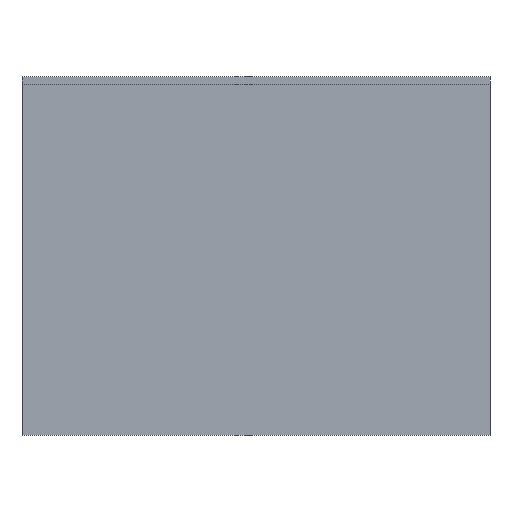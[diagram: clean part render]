
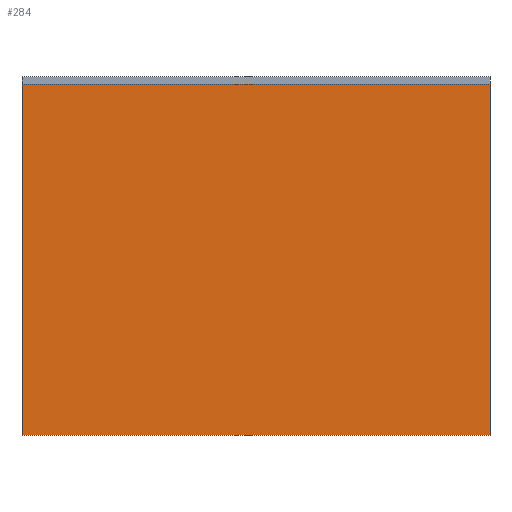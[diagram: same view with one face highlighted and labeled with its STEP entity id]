
A CAD part, front view. The second image highlights one B-rep face of the part: STEP entity #284.
In plain terms, the highlighted planar face has unit normal (0, -1, 0).
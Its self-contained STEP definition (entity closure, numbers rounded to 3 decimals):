
#38=FACE_OUTER_BOUND('',#52,.T.);
#52=EDGE_LOOP('',(#253,#254,#255,#256));
#58=LINE('',#387,#94);
#85=LINE('',#441,#121);
#87=LINE('',#444,#123);
#88=LINE('',#446,#124);
#94=VECTOR('',#318,10.);
#121=VECTOR('',#363,10.);
#123=VECTOR('',#367,10.);
#124=VECTOR('',#370,10.);
#129=VERTEX_POINT('',#384);
#130=VERTEX_POINT('',#386);
#147=VERTEX_POINT('',#438);
#148=VERTEX_POINT('',#440);
#154=EDGE_CURVE('',#130,#129,#58,.T.);
#181=EDGE_CURVE('',#148,#147,#85,.T.);
#183=EDGE_CURVE('',#147,#130,#87,.T.);
#184=EDGE_CURVE('',#148,#129,#88,.T.);
#253=ORIENTED_EDGE('',*,*,#154,.T.);
#254=ORIENTED_EDGE('',*,*,#184,.F.);
#255=ORIENTED_EDGE('',*,*,#181,.T.);
#256=ORIENTED_EDGE('',*,*,#183,.T.);
#270=PLANE('',#306);
#284=ADVANCED_FACE('',(#38),#270,.T.);
#306=AXIS2_PLACEMENT_3D('',#447,#371,#372);
#318=DIRECTION('',(-1.,0.,0.));
#363=DIRECTION('',(1.,0.,0.));
#367=DIRECTION('',(0.,0.,1.));
#370=DIRECTION('',(0.,0.,1.));
#371=DIRECTION('center_axis',(0.,-1.,0.));
#372=DIRECTION('ref_axis',(1.,0.,0.));
#384=CARTESIAN_POINT('',(0.,0.,0.225));
#386=CARTESIAN_POINT('',(0.3,0.,0.225));
#387=CARTESIAN_POINT('',(0.15,0.,0.225));
#438=CARTESIAN_POINT('',(0.3,0.,0.));
#440=CARTESIAN_POINT('',(0.,0.,0.));
#441=CARTESIAN_POINT('',(0.,0.,0.));
#444=CARTESIAN_POINT('',(0.3,0.,0.));
#446=CARTESIAN_POINT('',(0.,0.,0.));
#447=CARTESIAN_POINT('Origin',(0.,0.,0.));
